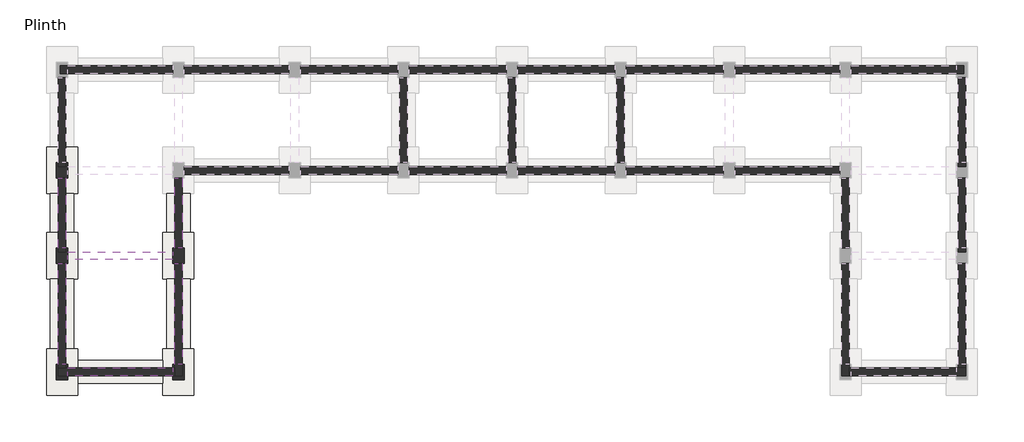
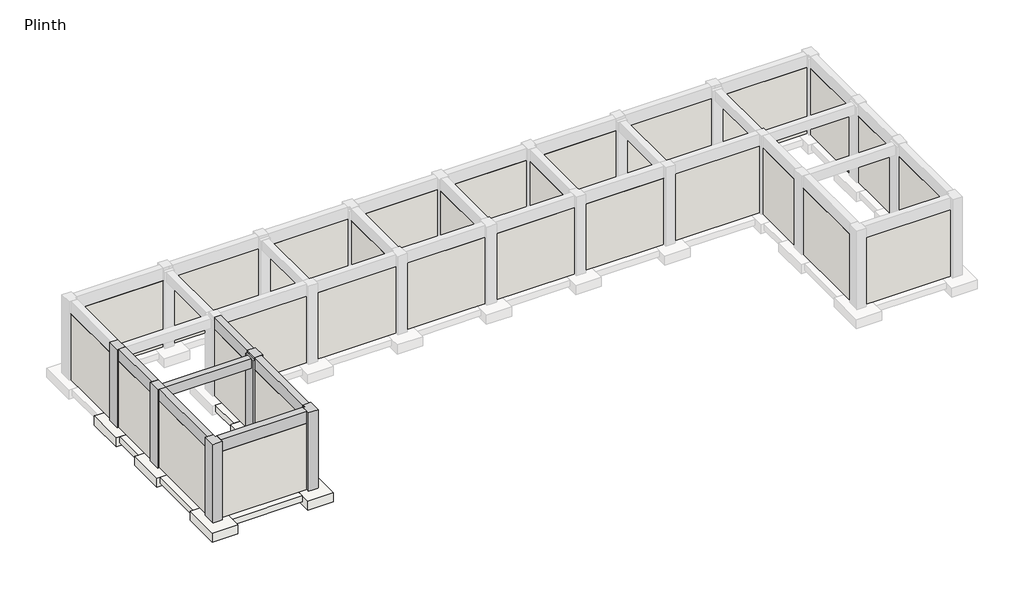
# One storey, part 1 of 3: 30 walls, 6 beams, 5 columns, 5 footings, 5 slabs.
"""IFC4 building model written with IfcOpenShell, lengths in millimetres."""

import ifcopenshell
import ifcopenshell.guid

model = None  # the IFC model being written
_history = None  # IfcOwnerHistory: only IFC2X3 demands one
_inside = {}  # id of a spatial element -> (the spatial element, [elements in it])
_under = {}  # id of a project, library or spatial element -> (it, [spatial elements below it])
_declared = {}  # id of a project -> (the project, [libraries it declares])
_typed = {}  # id of a type object -> (the type object, [elements of that type])
_made_of = {}  # id of a material, layer set ... -> (it, [elements and type objects made of it])


def new_model(schema):
    """Start an empty IFC model of exactly this schema.

    Asked for "IFC4X3", IfcOpenShell would pick the latest addendum, in which some entities
    have other attributes; the version numbers below select the first issue.
    IFC2X3 requires an IfcOwnerHistory on every rooted entity: one is made here for all.
    """
    global model, _history
    if schema == "IFC4X3":
        model = ifcopenshell.file(schema_version=(4, 3, 0, 0))
    else:
        model = ifcopenshell.file(schema=schema)
    _inside.clear()
    _under.clear()
    _declared.clear()
    _typed.clear()
    _made_of.clear()
    _history = None
    if model.schema == "IFC2X3":
        org = make("IfcOrganization", Name="unknown")
        user = make(
            "IfcPersonAndOrganization",
            ThePerson=make("IfcPerson", FamilyName="unknown"),
            TheOrganization=org,
        )
        app = make(
            "IfcApplication",
            ApplicationDeveloper=org,
            Version="unknown",
            ApplicationFullName="unknown",
            ApplicationIdentifier="unknown",
        )
        _history = make(
            "IfcOwnerHistory",
            OwningUser=user,
            OwningApplication=app,
            ChangeAction="ADDED",
            CreationDate=0,
        )
    return model


def make(cls, **values):
    """One entity of the class cls with the attributes given. An attribute that is None is left unset."""
    return model.create_entity(
        cls, **{name: value for name, value in values.items() if value is not None}
    )


def rooted(cls, **values):
    """An entity with a GlobalId (a new one), such as an element, a storey or a relation."""
    return make(cls, GlobalId=ifcopenshell.guid.new(), OwnerHistory=_history, **values)


def si_unit(unit_type, name, prefix=None):
    """IfcSIUnit, for example si_unit("LENGTHUNIT", "METRE", prefix="MILLI")."""
    return make("IfcSIUnit", UnitType=unit_type, Prefix=prefix, Name=name)


def assignment(units):
    """IfcUnitAssignment: the units of a project."""
    return None if units is None else make("IfcUnitAssignment", Units=units)


def point(xyz):
    """IfcCartesianPoint."""
    return None if xyz is None else make("IfcCartesianPoint", Coordinates=xyz)


def direction(xyz):
    """IfcDirection."""
    return None if xyz is None else make("IfcDirection", DirectionRatios=xyz)


def frame(location, z_axis=None, x_axis=None):
    """IfcAxis2Placement3D, a coordinate frame: its origin and axes. An axis left out is left unset."""
    return make(
        "IfcAxis2Placement3D",
        Location=point(location),
        Axis=direction(z_axis),
        RefDirection=direction(x_axis),
    )


def origin():
    """The frame at (0, 0, 0) with its axes left unset."""
    return frame((0.0, 0.0, 0.0))


def origin_with_axes():
    """The frame at (0, 0, 0) with the z axis (0, 0, 1) and the x axis (1, 0, 0) written out."""
    return frame((0.0, 0.0, 0.0), z_axis=(0.0, 0.0, 1.0), x_axis=(1.0, 0.0, 0.0))


def place(relative_to, where):
    """IfcLocalPlacement: puts the frame where relative to a parent placement (None: the world)."""
    return make(
        "IfcLocalPlacement", PlacementRelTo=relative_to, RelativePlacement=where
    )


def context(
    kind, dimensions, precision=None, world=None, true_north=None, identifier=None
):
    """IfcGeometricRepresentationContext, for example the 3D "Model" context."""
    return make(
        "IfcGeometricRepresentationContext",
        ContextIdentifier=identifier,
        ContextType=kind,
        CoordinateSpaceDimension=dimensions,
        Precision=precision,
        WorldCoordinateSystem=world,
        TrueNorth=true_north,
    )


def project(units=None, contexts=None):
    """IfcProject with its units and contexts."""
    return rooted(
        "IfcProject",
        Name="project",
        RepresentationContexts=contexts,
        UnitsInContext=assignment(units),
    )


def spatial(cls, under=None, at=None, **own):
    """A site, building, storey or space (cls), placed at a placement, below another one or the project."""
    s = rooted(cls, ObjectPlacement=at, **own)
    if under is not None:
        _under.setdefault(under.id(), (under, []))[1].append(s)
    return s


def polyline(points):
    """IfcPolyline through the points."""
    return make("IfcPolyline", Points=[point(p) for p in points])


def outline(outer, holes=None, kind="AREA"):
    """IfcArbitraryClosedProfileDef: a profile drawn as a closed curve; with holes, ...WithVoids."""
    if holes is None:
        return make("IfcArbitraryClosedProfileDef", ProfileType=kind, OuterCurve=outer)
    return make(
        "IfcArbitraryProfileDefWithVoids",
        ProfileType=kind,
        OuterCurve=outer,
        InnerCurves=holes,
    )


def extrude(swept, where, along, depth):
    """IfcExtrudedAreaSolid: the profile swept, set in the frame where, extruded along a direction by depth."""
    return make(
        "IfcExtrudedAreaSolid",
        SweptArea=swept,
        Position=where,
        ExtrudedDirection=direction(along),
        Depth=depth,
    )


def faces_of(points, faces, orient=None, outer=None):
    """IfcFace entities. A face is a list of loops; a loop is a list of indices into points, from 0.

    orient and outer hold one flag for each loop. By default every Orientation is true, the
    first loop of a face is its IfcFaceOuterBound and the others are IfcFaceBound.
    """
    made = []
    for i, loops in enumerate(faces):
        bounds = []
        for j, loop in enumerate(loops):
            is_outer = j == 0 if outer is None else outer[i][j]
            bounds.append(
                make(
                    "IfcFaceOuterBound" if is_outer else "IfcFaceBound",
                    Bound=make("IfcPolyLoop", Polygon=[points[k] for k in loop]),
                    Orientation=True if orient is None else orient[i][j],
                )
            )
        made.append(make("IfcFace", Bounds=bounds))
    return made


def faceted_brep(points, faces, orient=None, outer=None, voids=None):
    """IfcFacetedBrep: a solid bounded by flat faces; with voids (closed shells), ...WithVoids."""
    shared = [point(p) for p in points]
    hull = make("IfcClosedShell", CfsFaces=faces_of(shared, faces, orient, outer))
    if voids is None:
        return make("IfcFacetedBrep", Outer=hull)
    return make(
        "IfcFacetedBrepWithVoids",
        Outer=hull,
        Voids=[
            make(cls, CfsFaces=faces_of(shared, fs, o, b)) for cls, fs, o, b in voids
        ],
    )


def shape(context_of_items, identifier, shape_type, items):
    """IfcShapeRepresentation: the items that make up one representation, for example the "Body"."""
    return make(
        "IfcShapeRepresentation",
        ContextOfItems=context_of_items,
        RepresentationIdentifier=identifier,
        RepresentationType=shape_type,
        Items=items,
    )


def made_of(thing, what):
    """Note that an element or type object is made of a material, layer set ...; save() writes the relation."""
    if what is not None:
        _made_of.setdefault(what.id(), (what, []))[1].append(thing)
    return thing


def element(
    cls,
    number,
    at=None,
    inside=None,
    cuts=None,
    type_object=None,
    material=None,
    context=None,
    identifier="Body",
    shape_type=None,
    held_by="IfcProductDefinitionShape",
    body=None,
    shapes=None,
    **own,
):
    """One element of the class cls, such as IfcWall. Its Tag is "e" and its number.

    at: its placement. inside: the storey or other place that contains it. cuts: it is an
    opening in that element (IfcRelVoidsElement). A single representation is given by context,
    identifier, shape_type and body (its items); several are given by shapes. held_by: the class
    of the entity that holds the representations. save() writes the other relations.
    """
    e = rooted(cls, Tag="e%d" % number, ObjectPlacement=at, **own)
    if body is not None:
        shapes = [shape(context, identifier, shape_type, body)]
    if shapes is not None:
        e.Representation = make(held_by, Representations=shapes)
    if inside is not None:
        _inside.setdefault(inside.id(), (inside, []))[1].append(e)
    if cuts is not None:
        rooted(
            "IfcRelVoidsElement", RelatingBuildingElement=cuts, RelatedOpeningElement=e
        )
    if type_object is not None:
        _typed.setdefault(type_object.id(), (type_object, []))[1].append(e)
    return made_of(e, material)


def aggregate(whole, parts):
    """IfcRelAggregates: a whole, such as a stair, and the parts it consists of."""
    return rooted("IfcRelAggregates", RelatingObject=whole, RelatedObjects=parts)


def save(model, path):
    """Write the relations noted so far, then the file.

    IfcRelAggregates (storeys below a building ...), IfcRelContainedInSpatialStructure (elements
    in a storey), IfcRelDefinesByType, IfcRelAssociatesMaterial and IfcRelDeclares: one each for
    every whole, place, type object, material and project.
    """
    for whole, parts in _under.values():
        aggregate(whole, parts)
    for where, things in _inside.values():
        rooted(
            "IfcRelContainedInSpatialStructure",
            RelatedElements=things,
            RelatingStructure=where,
        )
    for kind, things in _typed.values():
        rooted("IfcRelDefinesByType", RelatedObjects=things, RelatingType=kind)
    for what, things in _made_of.values():
        rooted("IfcRelAssociatesMaterial", RelatedObjects=things, RelatingMaterial=what)
    for by, libraries in _declared.values():
        rooted("IfcRelDeclares", RelatingContext=by, RelatedDefinitions=libraries)
    model.write(path)


model = new_model("IFC4")

# Units and contexts
model_context = context("Model", 3, world=origin())
ifc_project = project(units=[si_unit("LENGTHUNIT", "METRE", prefix="MILLI")], contexts=[model_context])

# Site, building, storey
site = spatial("IfcSite", under=ifc_project)
building = spatial("IfcBuilding", under=site)
storey = spatial("IfcBuildingStorey", under=building, Name="Plinth", Elevation=304.8)

# Beams
placement = place(None, origin())
element("IfcBeam", 1, ObjectType="Concrete-Rectangular Beam : 12 x 24", at=placement, inside=storey, context=model_context, shape_type="SweptSolid", body=[
    extrude(outline(polyline([(-33700.7781752, 14207.7470864), (-33700.7781752, 13902.9470864), (-37815.5781752, 13902.9470864), (-37815.5781752, 14207.7470864), (-33700.7781752, 14207.7470864)])), frame((0.0, 0.0, 3657.6), z_axis=(0.0, 0.0, 1.0), x_axis=(1.0, 0.0, 0.0)), (0.0, 0.0, 1.0), 482.6),
])
element("IfcBeam", 2, ObjectType="Concrete-Rectangular Beam : 12 x 24", at=placement, inside=storey, context=model_context, shape_type="Brep", body=[
    faceted_brep([(-37891.7781752, 17103.3470864, 4267.2), (-38196.5781752, 17103.3470864, 4267.2), (-38196.5781752, 14360.1470864, 4267.2), (-37891.7781752, 14360.1470864, 4267.2), (-37891.7781752, 17103.3470864, 3657.6), (-37891.7781752, 17103.3470864, 4140.2), (-37891.7781752, 14360.1470864, 4140.2), (-37891.7781752, 14360.1470864, 3657.6), (-38196.5781752, 17103.3470864, 3657.6), (-38196.5781752, 14360.1470864, 3657.6)], [[[0, 1, 2, 3]], [[4, 5, 0, 3, 6, 7]], [[8, 4, 7, 9]], [[1, 8, 9, 2]], [[1, 0, 5, 4, 8]], [[3, 2, 9, 7, 6]]]),
])
element("IfcBeam", 3, ObjectType="Concrete-Rectangular Beam : 12 x 24", at=placement, inside=storey, context=model_context, shape_type="Brep", body=[
    faceted_brep([(-37891.7781752, 13750.5470864, 4267.2), (-38196.5781752, 13750.5470864, 4267.2), (-38196.5781752, 9788.1470864, 4267.2), (-37891.7781752, 9788.1470864, 4267.2), (-37891.7781752, 13750.5470864, 3657.6), (-37891.7781752, 13750.5470864, 4140.2), (-37891.7781752, 9788.1470864, 4140.2), (-37891.7781752, 9788.1470864, 3657.6), (-38196.5781752, 13750.5470864, 3657.6), (-38196.5781752, 9788.1470864, 3657.6)], [[[0, 1, 2, 3]], [[4, 5, 0, 3, 6, 7]], [[8, 4, 7, 9]], [[1, 8, 9, 2]], [[1, 0, 5, 4, 8]], [[3, 2, 9, 7, 6]]]),
])
element("IfcBeam", 4, ObjectType="Concrete-Rectangular Beam : 12 x 24", at=placement, inside=storey, context=model_context, shape_type="Brep", body=[
    faceted_brep([(-33319.7781752, 17103.3470864, 4267.2), (-33624.5781752, 17103.3470864, 4267.2), (-33624.5781752, 14360.1470864, 4267.2), (-33319.7781752, 14360.1470864, 4267.2), (-33319.7781752, 17103.3470864, 3657.6), (-33319.7781752, 14360.1470864, 3657.6), (-33624.5781752, 17103.3470864, 3657.6), (-33624.5781752, 14360.1470864, 3657.6), (-33624.5781752, 17103.3470864, 4140.2), (-33624.5781752, 14360.1470864, 4140.2)], [[[0, 1, 2, 3]], [[4, 0, 3, 5]], [[6, 4, 5, 7]], [[2, 1, 8, 6, 7, 9]], [[1, 0, 4, 6, 8]], [[3, 2, 9, 7, 5]]]),
])
element("IfcBeam", 5, ObjectType="Concrete-Rectangular Beam : 12 x 24", at=placement, inside=storey, context=model_context, shape_type="Brep", body=[
    faceted_brep([(-33319.7781752, 13750.5470864, 4267.2), (-33624.5781752, 13750.5470864, 4267.2), (-33624.5781752, 9788.1470864, 4267.2), (-33319.7781752, 9788.1470864, 4267.2), (-33319.7781752, 13750.5470864, 3657.6), (-33319.7781752, 9788.1470864, 3657.6), (-33624.5781752, 13750.5470864, 3657.6), (-33624.5781752, 9788.1470864, 3657.6), (-33624.5781752, 13750.5470864, 4140.2), (-33624.5781752, 9788.1470864, 4140.2)], [[[0, 1, 2, 3]], [[4, 0, 3, 5]], [[6, 4, 5, 7]], [[2, 1, 8, 6, 7, 9]], [[1, 0, 4, 6, 8]], [[3, 2, 9, 7, 5]]]),
])
element("IfcBeam", 6, ObjectType="Concrete-Rectangular Beam : 12 x 24", at=placement, inside=storey, context=model_context, shape_type="Brep", body=[
    faceted_brep([(-33700.7781752, 9330.9470864, 4267.2), (-33700.7781752, 9635.7470864, 4267.2), (-37815.5781752, 9635.7470864, 4267.2), (-37815.5781752, 9330.9470864, 4267.2), (-33700.7781752, 9330.9470864, 3657.6), (-37815.5781752, 9330.9470864, 3657.6), (-33700.7781752, 9635.7470864, 3657.6), (-37815.5781752, 9635.7470864, 3657.6), (-33700.7781752, 9635.7470864, 4140.2), (-37815.5781752, 9635.7470864, 4140.2)], [[[0, 1, 2, 3]], [[4, 0, 3, 5]], [[6, 4, 5, 7]], [[1, 8, 6, 7, 9, 2]], [[1, 0, 4, 6, 8]], [[3, 2, 9, 7, 5]]]),
])

# Columns
element("IfcColumn", 7, ObjectType="Concrete-Rectangular-Column : 18 x 24", at=placement, inside=storey, context=model_context, shape_type="Brep", body=[
    faceted_brep([(-38272.7781752, 17103.3470864, 304.8), (-38272.7781752, 17712.9470864, 304.8), (-38196.5781752, 17712.9470864, 304.8), (-38196.5781752, 17560.5470864, 304.8), (-37891.7781752, 17560.5470864, 304.8), (-37891.7781752, 17712.9470864, 304.8), (-37815.5781752, 17712.9470864, 304.8), (-37815.5781752, 17103.3470864, 304.8), (-37891.7781752, 17103.3470864, 304.8), (-38196.5781752, 17103.3470864, 304.8), (-38272.7781752, 17103.3470864, 4267.2), (-38272.7781752, 17712.9470864, 4267.2), (-37815.5781752, 17103.3470864, 4140.2), (-37891.7781752, 17103.3470864, 4140.2), (-37891.7781752, 17103.3470864, 4267.2), (-37815.5781752, 17712.9470864, 4140.2), (-37891.7781752, 17712.9470864, 4267.2), (-37891.7781752, 17712.9470864, 4140.2), (-37891.7781752, 17712.9470864, 3657.6), (-38196.5781752, 17712.9470864, 3657.6), (-37891.7781752, 17107.3073578, 4267.2), (-38196.5781752, 17560.5470864, 3657.6), (-37891.7781752, 17560.5470864, 3657.6), (-37891.7781752, 17107.3073578, 4140.2)], [[[0, 1, 2, 3, 4, 5, 6, 7, 8, 9]], [[1, 0, 10, 11]], [[0, 9, 8, 7, 12, 13, 14, 10]], [[7, 6, 15, 12]], [[1, 11, 16, 17, 15, 6, 5, 18, 19, 2]], [[11, 10, 14, 20, 16]], [[21, 3, 2, 19]], [[22, 21, 19, 18]], [[22, 4, 3, 21]], [[4, 22, 18, 5]], [[17, 23, 13, 12, 15]], [[20, 23, 17, 16]], [[23, 20, 14, 13]]]),
])
element("IfcColumn", 8, ObjectType="Concrete-Rectangular-Column : 18 x 24", at=placement, inside=storey, context=model_context, shape_type="Brep", body=[
    faceted_brep([(-33700.7781752, 13750.5470864, 304.8), (-33700.7781752, 14360.1470864, 304.8), (-33624.5781752, 14360.1470864, 304.8), (-33319.7781752, 14360.1470864, 304.8), (-33243.5781752, 14360.1470864, 304.8), (-33243.5781752, 13750.5470864, 304.8), (-33319.7781752, 13750.5470864, 304.8), (-33624.5781752, 13750.5470864, 304.8), (-33700.7781752, 13750.5470864, 4140.2), (-33700.7781752, 14360.1470864, 4140.2), (-33243.5781752, 13750.5470864, 4267.2), (-33624.5781752, 13750.5470864, 4267.2), (-33624.5781752, 13750.5470864, 4140.2), (-33243.5781752, 14360.1470864, 4267.2), (-33624.5781752, 14360.1470864, 4140.2), (-33624.5781752, 14360.1470864, 4267.2), (-33624.5781752, 14211.6122361, 4267.2), (-33624.5781752, 14211.6122361, 4140.2)], [[[0, 1, 2, 3, 4, 5, 6, 7]], [[1, 0, 8, 9]], [[0, 7, 6, 5, 10, 11, 12, 8]], [[5, 4, 13, 10]], [[4, 3, 2, 1, 9, 14, 15, 13]], [[10, 13, 15, 16, 11]], [[12, 17, 14, 9, 8]], [[16, 17, 12, 11]], [[17, 16, 15, 14]]]),
])
element("IfcColumn", 9, ObjectType="Concrete-Rectangular-Column : 18 x 24", at=placement, inside=storey, context=model_context, shape_type="Brep", body=[
    faceted_brep([(-38272.7781752, 13750.5470864, 304.8), (-38272.7781752, 14360.1470864, 304.8), (-38196.5781752, 14360.1470864, 304.8), (-38196.5781752, 14207.7470864, 304.8), (-37891.7781752, 14207.7470864, 304.8), (-37891.7781752, 14360.1470864, 304.8), (-37815.5781752, 14360.1470864, 304.8), (-37815.5781752, 13750.5470864, 304.8), (-37891.7781752, 13750.5470864, 304.8), (-38196.5781752, 13750.5470864, 304.8), (-38272.7781752, 13750.5470864, 4267.2), (-38272.7781752, 14360.1470864, 4267.2), (-37815.5781752, 13750.5470864, 4140.2), (-37891.7781752, 13750.5470864, 4140.2), (-37891.7781752, 13750.5470864, 4267.2), (-37815.5781752, 14360.1470864, 4140.2), (-37891.7781752, 14360.1470864, 4267.2), (-37891.7781752, 14360.1470864, 4140.2), (-37891.7781752, 14360.1470864, 3657.6), (-38196.5781752, 14360.1470864, 3657.6), (-37891.7781752, 14203.6458879, 4267.2), (-38196.5781752, 14207.7470864, 3657.6), (-37891.7781752, 14207.7470864, 3657.6), (-37891.7781752, 14203.6458879, 4140.2)], [[[0, 1, 2, 3, 4, 5, 6, 7, 8, 9]], [[1, 0, 10, 11]], [[0, 9, 8, 7, 12, 13, 14, 10]], [[7, 6, 15, 12]], [[1, 11, 16, 17, 15, 6, 5, 18, 19, 2]], [[11, 10, 14, 20, 16]], [[21, 3, 2, 19]], [[22, 21, 19, 18]], [[22, 4, 3, 21]], [[4, 22, 18, 5]], [[17, 23, 13, 12, 15]], [[20, 23, 17, 16]], [[23, 20, 14, 13]]]),
])
element("IfcColumn", 10, ObjectType="Concrete-Rectangular-Column : 18 x 24", at=placement, inside=storey, context=model_context, shape_type="Brep", body=[
    faceted_brep([(-33243.5781752, 9178.5470864, 304.8), (-33700.7781752, 9178.5470864, 304.8), (-33700.7781752, 9330.9470864, 304.8), (-33624.5781752, 9330.9470864, 304.8), (-33319.7781752, 9330.9470864, 304.8), (-33319.7781752, 9788.1470864, 304.8), (-33243.5781752, 9788.1470864, 304.8), (-33700.7781752, 9178.5470864, 4267.2), (-33700.7781752, 9635.7470864, 4267.2), (-33700.7781752, 9635.7470864, 4140.2), (-33700.7781752, 9788.1470864, 4140.2), (-33700.7781752, 9788.1470864, 304.8), (-33700.7781752, 9635.7470864, 304.8), (-33700.7781752, 9635.7470864, 3657.6), (-33700.7781752, 9330.9470864, 3657.6), (-33243.5781752, 9178.5470864, 4267.2), (-33243.5781752, 9788.1470864, 4267.2), (-33319.7781752, 9788.1470864, 3657.6), (-33624.5781752, 9788.1470864, 3657.6), (-33624.5781752, 9788.1470864, 304.8), (-33624.5781752, 9788.1470864, 4140.2), (-33624.5781752, 9788.1470864, 4267.2), (-33624.5781752, 9635.7470864, 4267.2), (-33624.5781752, 9635.7470864, 3657.6), (-33624.5781752, 9635.7470864, 304.8), (-33319.7781752, 9330.9470864, 3657.6), (-33624.5781752, 9330.9470864, 3657.6), (-33624.5781752, 9635.7470864, 4140.2)], [[[0, 1, 2, 3, 4, 5, 6]], [[1, 7, 8, 9, 10, 11, 12, 13, 14, 2]], [[1, 0, 15, 7]], [[0, 6, 16, 15]], [[16, 6, 5, 17, 18, 19, 11, 10, 20, 21]], [[7, 15, 16, 21, 22, 8]], [[19, 18, 23, 24]], [[4, 25, 17, 5]], [[25, 4, 3, 2, 14, 26]], [[23, 13, 12, 24]], [[17, 25, 26, 14, 13, 23, 18]], [[11, 19, 24, 12]], [[9, 27, 20, 10]], [[22, 27, 9, 8]], [[27, 22, 21, 20]]]),
])
element("IfcColumn", 11, ObjectType="Concrete-Rectangular-Column : 18 x 24", at=placement, inside=storey, context=model_context, shape_type="Brep", body=[
    faceted_brep([(-37815.5781752, 9788.1470864, 304.8), (-37815.5781752, 9635.7470864, 304.8), (-37891.7781752, 9635.7470864, 304.8), (-37891.7781752, 9788.1470864, 304.8), (-38272.7781752, 9788.1470864, 304.8), (-38272.7781752, 9178.5470864, 304.8), (-38272.7781752, 9178.5470864, 4267.2), (-38272.7781752, 9788.1470864, 4267.2), (-37815.5781752, 9178.5470864, 304.8), (-37815.5781752, 9178.5470864, 4267.2), (-37815.5781752, 9330.9470864, 304.8), (-37815.5781752, 9330.9470864, 3657.6), (-37815.5781752, 9635.7470864, 3657.6), (-37815.5781752, 9788.1470864, 4140.2), (-37815.5781752, 9635.7470864, 4140.2), (-37815.5781752, 9635.7470864, 4267.2), (-37891.7781752, 9788.1470864, 4267.2), (-37891.7781752, 9788.1470864, 4140.2), (-37891.7781752, 9788.1470864, 3657.6), (-38196.5781752, 9788.1470864, 3657.6), (-38196.5781752, 9788.1470864, 304.8), (-37891.7781752, 9635.7470864, 4267.2), (-37891.7781752, 9635.7470864, 3657.6), (-38196.5781752, 9330.9470864, 3657.6), (-38196.5781752, 9330.9470864, 304.8), (-38196.5781752, 9635.7470864, 3657.6), (-38196.5781752, 9635.7470864, 304.8), (-37891.7781752, 9635.7470864, 4140.2)], [[[0, 1, 2, 3]], [[4, 5, 6, 7]], [[5, 8, 9, 6]], [[9, 8, 10, 11, 12, 1, 0, 13, 14, 15]], [[4, 7, 16, 17, 13, 0, 3, 18, 19, 20]], [[7, 6, 9, 15, 21, 16]], [[1, 12, 22, 2]], [[23, 11, 10, 24]], [[11, 23, 25, 19, 18, 22, 12]], [[23, 24, 26, 20, 19, 25]], [[22, 18, 3, 2]], [[5, 4, 20, 26, 24, 10, 8]], [[17, 27, 14, 13]], [[21, 27, 17, 16]], [[27, 21, 15, 14]]]),
])

# Footings
element("IfcFooting", 12, ObjectType="Bearing Footing - 36\" x 12\"", at=placement, inside=storey, context=model_context, shape_type="SweptSolid", body=[
    extrude(outline(polyline([(-38501.3781752, 16493.7470864), (-37586.9781752, 16493.7470864), (-37586.9781752, 14969.7470864), (-38501.3781752, 14969.7470864), (-38501.3781752, 16493.7470864)])), origin_with_axes(), (0.0, 0.0, 1.0), 304.8),
])
element("IfcFooting", 13, ObjectType="Bearing Footing - 36\" x 12\"", at=placement, inside=storey, context=model_context, shape_type="SweptSolid", body=[
    extrude(outline(polyline([(-38501.3781752, 13140.9470864), (-37586.9781752, 13140.9470864), (-37586.9781752, 10397.7470864), (-38501.3781752, 10397.7470864), (-38501.3781752, 13140.9470864)])), origin_with_axes(), (0.0, 0.0, 1.0), 304.8),
])
element("IfcFooting", 14, ObjectType="Bearing Footing - 36\" x 12\"", at=placement, inside=storey, context=model_context, shape_type="SweptSolid", body=[
    extrude(outline(polyline([(-34081.7781752, 9940.5470864), (-34081.7781752, 9026.1470864), (-37434.5781752, 9026.1470864), (-37434.5781752, 9940.5470864), (-34081.7781752, 9940.5470864)])), origin_with_axes(), (0.0, 0.0, 1.0), 304.8),
])
element("IfcFooting", 15, ObjectType="Bearing Footing - 36\" x 12\"", at=placement, inside=storey, context=model_context, shape_type="SweptSolid", body=[
    extrude(outline(polyline([(-33929.3781752, 13140.9470864), (-33014.9781752, 13140.9470864), (-33014.9781752, 10397.7470864), (-33929.3781752, 10397.7470864), (-33929.3781752, 13140.9470864)])), origin_with_axes(), (0.0, 0.0, 1.0), 304.8),
])
element("IfcFooting", 16, ObjectType="Bearing Footing - 36\" x 12\"", at=placement, inside=storey, context=model_context, shape_type="SweptSolid", body=[
    extrude(outline(polyline([(-33929.3781752, 16493.7470864), (-33014.9781752, 16493.7470864), (-33014.9781752, 14969.7470864), (-33929.3781752, 14969.7470864), (-33929.3781752, 16493.7470864)])), origin_with_axes(), (0.0, 0.0, 1.0), 304.8),
])

# Slabs
element("IfcSlab", 17, ObjectType="Footing-Rectangular : 72\" x 48\" x 18\"", at=placement, inside=storey, context=model_context, shape_type="Brep", body=[
    faceted_brep([(-37434.5781752, 16493.7470864, 304.8), (-37434.5781752, 18322.5470864, 304.8), (-37586.9781752, 18322.5470864, 304.8), (-38501.3781752, 18322.5470864, 304.8), (-38653.7781752, 18322.5470864, 304.8), (-38653.7781752, 16493.7470864, 304.8), (-38501.3781752, 16493.7470864, 304.8), (-37586.9781752, 16493.7470864, 304.8), (-37434.5781752, 16493.7470864, -152.4), (-38653.7781752, 16493.7470864, -152.4), (-38653.7781752, 18322.5470864, -152.4), (-37434.5781752, 18322.5470864, -152.4)], [[[0, 1, 2, 3, 4, 5, 6, 7]], [[8, 9, 10, 11]], [[5, 9, 8, 0, 7, 6]], [[4, 10, 9, 5]], [[1, 11, 10, 4, 3, 2]], [[0, 8, 11, 1]]]),
])
element("IfcSlab", 18, ObjectType="Footing-Rectangular : 72\" x 48\" x 18\"", at=placement, inside=storey, context=model_context, shape_type="Brep", body=[
    faceted_brep([(-32862.5781752, 13140.9470864, 304.8), (-32862.5781752, 14969.7470864, 304.8), (-33014.9781752, 14969.7470864, 304.8), (-33929.3781752, 14969.7470864, 304.8), (-34081.7781752, 14969.7470864, 304.8), (-34081.7781752, 13140.9470864, 304.8), (-33929.3781752, 13140.9470864, 304.8), (-33014.9781752, 13140.9470864, 304.8), (-32862.5781752, 13140.9470864, -152.4), (-34081.7781752, 13140.9470864, -152.4), (-34081.7781752, 14969.7470864, -152.4), (-32862.5781752, 14969.7470864, -152.4)], [[[0, 1, 2, 3, 4, 5, 6, 7]], [[8, 9, 10, 11]], [[5, 9, 8, 0, 7, 6]], [[4, 10, 9, 5]], [[1, 11, 10, 4, 3, 2]], [[0, 8, 11, 1]]]),
])
element("IfcSlab", 19, ObjectType="Footing-Rectangular : 72\" x 48\" x 18\"", at=placement, inside=storey, context=model_context, shape_type="Brep", body=[
    faceted_brep([(-37434.5781752, 13140.9470864, 304.8), (-37434.5781752, 14969.7470864, 304.8), (-37586.9781752, 14969.7470864, 304.8), (-38501.3781752, 14969.7470864, 304.8), (-38653.7781752, 14969.7470864, 304.8), (-38653.7781752, 13140.9470864, 304.8), (-38501.3781752, 13140.9470864, 304.8), (-37586.9781752, 13140.9470864, 304.8), (-37434.5781752, 13140.9470864, -152.4), (-38653.7781752, 13140.9470864, -152.4), (-38653.7781752, 14969.7470864, -152.4), (-37434.5781752, 14969.7470864, -152.4)], [[[0, 1, 2, 3, 4, 5, 6, 7]], [[8, 9, 10, 11]], [[5, 9, 8, 0, 7, 6]], [[4, 10, 9, 5]], [[1, 11, 10, 4, 3, 2]], [[0, 8, 11, 1]]]),
])
element("IfcSlab", 20, ObjectType="Footing-Rectangular : 72\" x 48\" x 18\"", at=placement, inside=storey, context=model_context, shape_type="Brep", body=[
    faceted_brep([(-32862.5781752, 8568.9470864, 304.8), (-32862.5781752, 10397.7470864, 304.8), (-33014.9781752, 10397.7470864, 304.8), (-33929.3781752, 10397.7470864, 304.8), (-34081.7781752, 10397.7470864, 304.8), (-34081.7781752, 9940.5470864, 304.8), (-34081.7781752, 9026.1470864, 304.8), (-34081.7781752, 8568.9470864, 304.8), (-32862.5781752, 8568.9470864, -152.4), (-34081.7781752, 8568.9470864, -152.4), (-34081.7781752, 10397.7470864, -152.4), (-32862.5781752, 10397.7470864, -152.4)], [[[0, 1, 2, 3, 4, 5, 6, 7]], [[8, 9, 10, 11]], [[7, 9, 8, 0]], [[4, 10, 9, 7, 6, 5]], [[1, 11, 10, 4, 3, 2]], [[0, 8, 11, 1]]]),
])
element("IfcSlab", 21, ObjectType="Footing-Rectangular : 72\" x 48\" x 18\"", at=placement, inside=storey, context=model_context, shape_type="Brep", body=[
    faceted_brep([(-37434.5781752, 8568.9470864, 304.8), (-37434.5781752, 9026.1470864, 304.8), (-37434.5781752, 9940.5470864, 304.8), (-37434.5781752, 10397.7470864, 304.8), (-37586.9781752, 10397.7470864, 304.8), (-38501.3781752, 10397.7470864, 304.8), (-38653.7781752, 10397.7470864, 304.8), (-38653.7781752, 8568.9470864, 304.8), (-37434.5781752, 8568.9470864, -152.4), (-38653.7781752, 8568.9470864, -152.4), (-38653.7781752, 10397.7470864, -152.4), (-37434.5781752, 10397.7470864, -152.4)], [[[0, 1, 2, 3, 4, 5, 6, 7]], [[8, 9, 10, 11]], [[7, 9, 8, 0]], [[6, 10, 9, 7]], [[3, 11, 10, 6, 5, 4]], [[0, 8, 11, 3, 2, 1]]]),
])

# Walls
element("IfcWall", 22, ObjectType="Exterior - 12\" Concrete", at=placement, inside=storey, context=model_context, shape_type="Brep", body=[
    faceted_brep([(-7030.7781752, 21218.1470864, 304.8), (-2915.9781752, 21218.1470864, 304.8), (-2611.1781752, 21218.1470864, 304.8), (-2611.1781752, 21218.1470864, 3352.8), (-2611.1781752, 21218.1470864, 3657.6), (-2915.9781752, 21218.1470864, 3657.6), (-7030.7781752, 21218.1470864, 3657.6), (-7030.7781752, 21522.9470864, 304.8), (-7030.7781752, 21522.9470864, 3657.6), (-2915.9781752, 21522.9470864, 3657.6), (-2611.1781752, 21522.9470864, 3657.6), (-2611.1781752, 21522.9470864, 3352.8), (-2611.1781752, 21522.9470864, 304.8), (-2915.9781752, 21522.9470864, 304.8)], [[[0, 1, 2, 3, 4, 5, 6]], [[7, 8, 9, 10, 11, 12, 13]], [[2, 1, 0, 7, 13, 12]], [[4, 3, 2, 12, 11, 10]], [[6, 5, 4, 10, 9, 8]], [[0, 6, 8, 7]]]),
])
element("IfcWall", 23, ObjectType="Exterior - 12\" Concrete", at=placement, inside=storey, context=model_context, shape_type="SweptSolid", body=[
    extrude(outline(polyline([(-7411.7781752, 14360.1470864), (-7411.7781752, 17103.3470864), (-7106.9781752, 17103.3470864), (-7106.9781752, 14360.1470864), (-7411.7781752, 14360.1470864)])), frame((0.0, 0.0, 304.8), z_axis=(0.0, 0.0, 1.0), x_axis=(1.0, 0.0, 0.0)), (0.0, 0.0, 1.0), 3352.8),
])
element("IfcWall", 24, ObjectType="Exterior - 12\" Concrete", at=placement, inside=storey, context=model_context, shape_type="Brep", body=[
    faceted_brep([(-7411.7781752, 13750.5470864, 304.8), (-7411.7781752, 9788.1470864, 304.8), (-7411.7781752, 9330.9470864, 304.8), (-7411.7781752, 9330.9470864, 3352.8), (-7411.7781752, 9330.9470864, 3657.6), (-7411.7781752, 9788.1470864, 3657.6), (-7411.7781752, 13750.5470864, 3657.6), (-7106.9781752, 13750.5470864, 304.8), (-7106.9781752, 13750.5470864, 3657.6), (-7106.9781752, 9788.1470864, 3657.6), (-7106.9781752, 9635.7470864, 3657.6), (-7106.9781752, 9330.9470864, 3657.6), (-7106.9781752, 9330.9470864, 304.8), (-7106.9781752, 9635.7470864, 304.8), (-7106.9781752, 9788.1470864, 304.8)], [[[0, 1, 2, 3, 4, 5, 6]], [[7, 8, 9, 10, 11, 12, 13, 14]], [[2, 1, 0, 7, 14, 13, 12]], [[6, 5, 4, 11, 10, 9, 8]], [[0, 6, 8, 7]], [[4, 3, 2, 12, 11]]]),
])
element("IfcWall", 25, ObjectType="Exterior - 12\" Concrete", at=placement, inside=storey, context=model_context, shape_type="Brep", body=[
    faceted_brep([(-7106.9781752, 9330.9470864, 304.8), (-7030.7781752, 9330.9470864, 304.8), (-2915.9781752, 9330.9470864, 304.8), (-2534.9781752, 9330.9470864, 304.8), (-2534.9781752, 9330.9470864, 3352.8), (-2534.9781752, 9330.9470864, 3657.6), (-2915.9781752, 9330.9470864, 3657.6), (-7030.7781752, 9330.9470864, 3657.6), (-7106.9781752, 9330.9470864, 3657.6), (-7106.9781752, 9635.7470864, 304.8), (-7106.9781752, 9635.7470864, 3352.8), (-7106.9781752, 9635.7470864, 3657.6), (-7030.7781752, 9635.7470864, 3657.6), (-2915.9781752, 9635.7470864, 3657.6), (-2839.7781752, 9635.7470864, 3657.6), (-2534.9781752, 9635.7470864, 3657.6), (-2534.9781752, 9635.7470864, 304.8), (-2839.7781752, 9635.7470864, 304.8), (-2915.9781752, 9635.7470864, 304.8), (-7030.7781752, 9635.7470864, 304.8)], [[[0, 1, 2, 3, 4, 5, 6, 7, 8]], [[9, 10, 11, 12, 13, 14, 15, 16, 17, 18, 19]], [[3, 2, 1, 0, 9, 19, 18, 17, 16]], [[8, 7, 6, 5, 15, 14, 13, 12, 11]], [[0, 8, 11, 10, 9]], [[5, 4, 3, 16, 15]]]),
])
element("IfcWall", 26, ObjectType="Exterior - 12\" Concrete", at=placement, inside=storey, context=model_context, shape_type="Brep", body=[
    faceted_brep([(-2534.9781752, 9635.7470864, 304.8), (-2534.9781752, 9788.1470864, 304.8), (-2534.9781752, 13750.5470864, 304.8), (-2534.9781752, 13750.5470864, 3657.6), (-2534.9781752, 9788.1470864, 3657.6), (-2534.9781752, 9635.7470864, 3657.6), (-2839.7781752, 9635.7470864, 304.8), (-2839.7781752, 9635.7470864, 3352.8), (-2839.7781752, 9635.7470864, 3657.6), (-2839.7781752, 9788.1470864, 3657.6), (-2839.7781752, 13750.5470864, 3657.6), (-2839.7781752, 13750.5470864, 304.8), (-2839.7781752, 9788.1470864, 304.8)], [[[0, 1, 2, 3, 4, 5]], [[6, 7, 8, 9, 10, 11, 12]], [[2, 1, 0, 6, 12, 11]], [[3, 2, 11, 10]], [[5, 4, 3, 10, 9, 8]], [[0, 5, 8, 7, 6]]]),
])
element("IfcWall", 27, ObjectType="Exterior - 12\" Concrete", at=placement, inside=storey, context=model_context, shape_type="Brep", body=[
    faceted_brep([(-2534.9781752, 14207.7470864, 304.8), (-2534.9781752, 14360.1470864, 304.8), (-2534.9781752, 17103.3470864, 304.8), (-2534.9781752, 17103.3470864, 3657.6), (-2534.9781752, 14360.1470864, 3657.6), (-2534.9781752, 14207.7470864, 3657.6), (-2534.9781752, 14207.7470864, 3352.8), (-2839.7781752, 14207.7470864, 304.8), (-2839.7781752, 14207.7470864, 3352.8), (-2839.7781752, 14207.7470864, 3657.6), (-2839.7781752, 14360.1470864, 3657.6), (-2839.7781752, 17103.3470864, 3657.6), (-2839.7781752, 17103.3470864, 304.8), (-2839.7781752, 14360.1470864, 304.8)], [[[0, 1, 2, 3, 4, 5, 6]], [[7, 8, 9, 10, 11, 12, 13]], [[2, 1, 0, 7, 13, 12]], [[3, 2, 12, 11]], [[5, 4, 3, 11, 10, 9]], [[0, 6, 5, 9, 8, 7]]]),
])
element("IfcWall", 28, ObjectType="Exterior - 12\" Concrete", at=placement, inside=storey, context=model_context, shape_type="Brep", body=[
    faceted_brep([(-2534.9781752, 17560.5470864, 304.8), (-2534.9781752, 17712.9470864, 304.8), (-2534.9781752, 21065.7470864, 304.8), (-2534.9781752, 21065.7470864, 3657.6), (-2534.9781752, 17712.9470864, 3657.6), (-2534.9781752, 17560.5470864, 3657.6), (-2534.9781752, 17560.5470864, 3352.8), (-2839.7781752, 17560.5470864, 304.8), (-2839.7781752, 17560.5470864, 3352.8), (-2839.7781752, 17560.5470864, 3657.6), (-2839.7781752, 17712.9470864, 3657.6), (-2839.7781752, 21065.7470864, 3657.6), (-2839.7781752, 21065.7470864, 304.8), (-2839.7781752, 17712.9470864, 304.8)], [[[0, 1, 2, 3, 4, 5, 6]], [[7, 8, 9, 10, 11, 12, 13]], [[2, 1, 0, 7, 13, 12]], [[3, 2, 12, 11]], [[5, 4, 3, 11, 10, 9]], [[0, 6, 5, 9, 8, 7]]]),
])
element("IfcWall", 29, ObjectType="Exterior - 12\" Concrete", at=placement, inside=storey, context=model_context, shape_type="SweptSolid", body=[
    extrude(outline(polyline([(-20518.1781752, 17712.9470864), (-20518.1781752, 21065.7470864), (-20213.3781752, 21065.7470864), (-20213.3781752, 17712.9470864), (-20518.1781752, 17712.9470864)])), frame((0.0, 0.0, 304.8), z_axis=(0.0, 0.0, 1.0), x_axis=(1.0, 0.0, 0.0)), (0.0, 0.0, 1.0), 3352.8),
])
element("IfcWall", 30, ObjectType="Exterior - 12\" Concrete", at=placement, inside=storey, context=model_context, shape_type="SweptSolid", body=[
    extrude(outline(polyline([(-16327.1781752, 21218.1470864), (-20137.1781752, 21218.1470864), (-20137.1781752, 21522.9470864), (-16327.1781752, 21522.9470864), (-16327.1781752, 21218.1470864)])), frame((0.0, 0.0, 304.8), z_axis=(0.0, 0.0, 1.0), x_axis=(1.0, 0.0, 0.0)), (0.0, 0.0, 1.0), 3352.8),
])
element("IfcWall", 31, ObjectType="Exterior - 12\" Concrete", at=placement, inside=storey, context=model_context, shape_type="SweptSolid", body=[
    extrude(outline(polyline([(-12059.9781752, 21218.1470864), (-15869.9781752, 21218.1470864), (-15869.9781752, 21522.9470864), (-12059.9781752, 21522.9470864), (-12059.9781752, 21218.1470864)])), frame((0.0, 0.0, 304.8), z_axis=(0.0, 0.0, 1.0), x_axis=(1.0, 0.0, 0.0)), (0.0, 0.0, 1.0), 3352.8),
])
element("IfcWall", 32, ObjectType="Exterior - 12\" Concrete", at=placement, inside=storey, context=model_context, shape_type="SweptSolid", body=[
    extrude(outline(polyline([(-7487.9781752, 21218.1470864), (-11602.7781752, 21218.1470864), (-11602.7781752, 21522.9470864), (-7487.9781752, 21522.9470864), (-7487.9781752, 21218.1470864)])), frame((0.0, 0.0, 304.8), z_axis=(0.0, 0.0, 1.0), x_axis=(1.0, 0.0, 0.0)), (0.0, 0.0, 1.0), 3352.8),
])
element("IfcWall", 33, ObjectType="Exterior - 12\" Concrete", at=placement, inside=storey, context=model_context, shape_type="SweptSolid", body=[
    extrude(outline(polyline([(-16327.1781752, 17255.7470864), (-20137.1781752, 17255.7470864), (-20137.1781752, 17560.5470864), (-16327.1781752, 17560.5470864), (-16327.1781752, 17255.7470864)])), frame((0.0, 0.0, 304.8), z_axis=(0.0, 0.0, 1.0), x_axis=(1.0, 0.0, 0.0)), (0.0, 0.0, 1.0), 3352.8),
])
element("IfcWall", 34, ObjectType="Exterior - 12\" Concrete", at=placement, inside=storey, context=model_context, shape_type="SweptSolid", body=[
    extrude(outline(polyline([(-12059.9781752, 17255.7470864), (-15869.9781752, 17255.7470864), (-15869.9781752, 17560.5470864), (-12059.9781752, 17560.5470864), (-12059.9781752, 17255.7470864)])), frame((0.0, 0.0, 304.8), z_axis=(0.0, 0.0, 1.0), x_axis=(1.0, 0.0, 0.0)), (0.0, 0.0, 1.0), 3352.8),
])
element("IfcWall", 35, ObjectType="Exterior - 12\" Concrete", at=placement, inside=storey, context=model_context, shape_type="SweptSolid", body=[
    extrude(outline(polyline([(-7487.9781752, 17255.7470864), (-11602.7781752, 17255.7470864), (-11602.7781752, 17560.5470864), (-7487.9781752, 17560.5470864), (-7487.9781752, 17255.7470864)])), frame((0.0, 0.0, 304.8), z_axis=(0.0, 0.0, 1.0), x_axis=(1.0, 0.0, 0.0)), (0.0, 0.0, 1.0), 3352.8),
])
element("IfcWall", 36, ObjectType="Exterior - 12\" Concrete", at=placement, inside=storey, context=model_context, shape_type="SweptSolid", body=[
    extrude(outline(polyline([(-16250.9781752, 17712.9470864), (-16250.9781752, 21065.7470864), (-15946.1781752, 21065.7470864), (-15946.1781752, 17712.9470864), (-16250.9781752, 17712.9470864)])), frame((0.0, 0.0, 304.8), z_axis=(0.0, 0.0, 1.0), x_axis=(1.0, 0.0, 0.0)), (0.0, 0.0, 1.0), 3352.8),
])
element("IfcWall", 37, ObjectType="Exterior - 12\" Concrete", at=placement, inside=storey, context=model_context, shape_type="Brep", body=[
    faceted_brep([(-33700.7781752, 21522.9470864, 304.8), (-37815.5781752, 21522.9470864, 304.8), (-38120.3781752, 21522.9470864, 304.8), (-38120.3781752, 21522.9470864, 3352.8), (-38120.3781752, 21522.9470864, 3657.6), (-37815.5781752, 21522.9470864, 3657.6), (-33700.7781752, 21522.9470864, 3657.6), (-33700.7781752, 21218.1470864, 304.8), (-33700.7781752, 21218.1470864, 3657.6), (-37815.5781752, 21218.1470864, 3657.6), (-38120.3781752, 21218.1470864, 3657.6), (-38120.3781752, 21218.1470864, 3352.8), (-38120.3781752, 21218.1470864, 304.8), (-37815.5781752, 21218.1470864, 304.8)], [[[0, 1, 2, 3, 4, 5, 6]], [[7, 8, 9, 10, 11, 12, 13]], [[2, 1, 0, 7, 13, 12]], [[4, 3, 2, 12, 11, 10]], [[6, 5, 4, 10, 9, 8]], [[0, 6, 8, 7]]]),
])
element("IfcWall", 38, ObjectType="Exterior - 12\" Concrete", at=placement, inside=storey, context=model_context, shape_type="SweptSolid", body=[
    extrude(outline(polyline([(-33624.5781752, 14360.1470864), (-33624.5781752, 17103.3470864), (-33319.7781752, 17103.3470864), (-33319.7781752, 14360.1470864), (-33624.5781752, 14360.1470864)])), frame((0.0, 0.0, 304.8), z_axis=(0.0, 0.0, 1.0), x_axis=(1.0, 0.0, 0.0)), (0.0, 0.0, 1.0), 3352.8),
])
element("IfcWall", 39, ObjectType="Exterior - 12\" Concrete", at=placement, inside=storey, context=model_context, shape_type="Brep", body=[
    faceted_brep([(-33624.5781752, 13750.5470864, 304.8), (-33624.5781752, 9788.1470864, 304.8), (-33624.5781752, 9635.7470864, 304.8), (-33624.5781752, 9330.9470864, 304.8), (-33624.5781752, 9330.9470864, 3657.6), (-33624.5781752, 9635.7470864, 3657.6), (-33624.5781752, 9788.1470864, 3657.6), (-33624.5781752, 13750.5470864, 3657.6), (-33319.7781752, 13750.5470864, 304.8), (-33319.7781752, 13750.5470864, 3657.6), (-33319.7781752, 9788.1470864, 3657.6), (-33319.7781752, 9330.9470864, 3657.6), (-33319.7781752, 9330.9470864, 3352.8), (-33319.7781752, 9330.9470864, 304.8), (-33319.7781752, 9788.1470864, 304.8)], [[[0, 1, 2, 3, 4, 5, 6, 7]], [[8, 9, 10, 11, 12, 13, 14]], [[3, 2, 1, 0, 8, 14, 13]], [[7, 6, 5, 4, 11, 10, 9]], [[0, 7, 9, 8]], [[4, 3, 13, 12, 11]]]),
])
element("IfcWall", 40, ObjectType="Exterior - 12\" Concrete", at=placement, inside=storey, context=model_context, shape_type="Brep", body=[
    faceted_brep([(-33624.5781752, 9635.7470864, 304.8), (-33700.7781752, 9635.7470864, 304.8), (-37815.5781752, 9635.7470864, 304.8), (-37891.7781752, 9635.7470864, 304.8), (-38196.5781752, 9635.7470864, 304.8), (-38196.5781752, 9635.7470864, 3657.6), (-37891.7781752, 9635.7470864, 3657.6), (-37815.5781752, 9635.7470864, 3657.6), (-33700.7781752, 9635.7470864, 3657.6), (-33624.5781752, 9635.7470864, 3657.6), (-33624.5781752, 9635.7470864, 3352.8), (-33624.5781752, 9330.9470864, 304.8), (-33624.5781752, 9330.9470864, 3657.6), (-33700.7781752, 9330.9470864, 3657.6), (-37815.5781752, 9330.9470864, 3657.6), (-38196.5781752, 9330.9470864, 3657.6), (-38196.5781752, 9330.9470864, 3352.8), (-38196.5781752, 9330.9470864, 304.8), (-37815.5781752, 9330.9470864, 304.8), (-33700.7781752, 9330.9470864, 304.8)], [[[0, 1, 2, 3, 4, 5, 6, 7, 8, 9, 10]], [[11, 12, 13, 14, 15, 16, 17, 18, 19]], [[4, 3, 2, 1, 0, 11, 19, 18, 17]], [[9, 8, 7, 6, 5, 15, 14, 13, 12]], [[0, 10, 9, 12, 11]], [[5, 4, 17, 16, 15]]]),
])
element("IfcWall", 41, ObjectType="Exterior - 12\" Concrete", at=placement, inside=storey, context=model_context, shape_type="Brep", body=[
    faceted_brep([(-37891.7781752, 9635.7470864, 304.8), (-37891.7781752, 9788.1470864, 304.8), (-37891.7781752, 13750.5470864, 304.8), (-37891.7781752, 13750.5470864, 3657.6), (-37891.7781752, 9788.1470864, 3657.6), (-37891.7781752, 9635.7470864, 3657.6), (-37891.7781752, 9635.7470864, 3352.8), (-38196.5781752, 9635.7470864, 304.8), (-38196.5781752, 9635.7470864, 3657.6), (-38196.5781752, 9788.1470864, 3657.6), (-38196.5781752, 13750.5470864, 3657.6), (-38196.5781752, 13750.5470864, 304.8), (-38196.5781752, 9788.1470864, 304.8)], [[[0, 1, 2, 3, 4, 5, 6]], [[7, 8, 9, 10, 11, 12]], [[2, 1, 0, 7, 12, 11]], [[3, 2, 11, 10]], [[5, 4, 3, 10, 9, 8]], [[0, 6, 5, 8, 7]]]),
])
element("IfcWall", 42, ObjectType="Exterior - 12\" Concrete", at=placement, inside=storey, context=model_context, shape_type="Brep", body=[
    faceted_brep([(-37891.7781752, 14207.7470864, 304.8), (-37891.7781752, 14360.1470864, 304.8), (-37891.7781752, 17103.3470864, 304.8), (-37891.7781752, 17103.3470864, 3657.6), (-37891.7781752, 14360.1470864, 3657.6), (-37891.7781752, 14207.7470864, 3657.6), (-37891.7781752, 14207.7470864, 3352.8), (-38196.5781752, 14207.7470864, 304.8), (-38196.5781752, 14207.7470864, 3352.8), (-38196.5781752, 14207.7470864, 3657.6), (-38196.5781752, 14360.1470864, 3657.6), (-38196.5781752, 17103.3470864, 3657.6), (-38196.5781752, 17103.3470864, 304.8), (-38196.5781752, 14360.1470864, 304.8)], [[[0, 1, 2, 3, 4, 5, 6]], [[7, 8, 9, 10, 11, 12, 13]], [[2, 1, 0, 7, 13, 12]], [[3, 2, 12, 11]], [[5, 4, 3, 11, 10, 9]], [[0, 6, 5, 9, 8, 7]]]),
])
element("IfcWall", 43, ObjectType="Exterior - 12\" Concrete", at=placement, inside=storey, context=model_context, shape_type="Brep", body=[
    faceted_brep([(-37891.7781752, 17560.5470864, 304.8), (-37891.7781752, 17712.9470864, 304.8), (-37891.7781752, 21065.7470864, 304.8), (-37891.7781752, 21065.7470864, 3657.6), (-37891.7781752, 17712.9470864, 3657.6), (-37891.7781752, 17560.5470864, 3657.6), (-37891.7781752, 17560.5470864, 3352.8), (-38196.5781752, 17560.5470864, 304.8), (-38196.5781752, 17560.5470864, 3352.8), (-38196.5781752, 17560.5470864, 3657.6), (-38196.5781752, 17712.9470864, 3657.6), (-38196.5781752, 21065.7470864, 3657.6), (-38196.5781752, 21065.7470864, 304.8), (-38196.5781752, 17712.9470864, 304.8)], [[[0, 1, 2, 3, 4, 5, 6]], [[7, 8, 9, 10, 11, 12, 13]], [[2, 1, 0, 7, 13, 12]], [[3, 2, 12, 11]], [[5, 4, 3, 11, 10, 9]], [[0, 6, 5, 9, 8, 7]]]),
])
element("IfcWall", 44, ObjectType="Exterior - 12\" Concrete", at=placement, inside=storey, context=model_context, shape_type="SweptSolid", body=[
    extrude(outline(polyline([(-20518.1781752, 17712.9470864), (-20518.1781752, 21065.7470864), (-20213.3781752, 21065.7470864), (-20213.3781752, 17712.9470864), (-20518.1781752, 17712.9470864)])), frame((0.0, 0.0, 304.8), z_axis=(0.0, 0.0, 1.0), x_axis=(1.0, 0.0, 0.0)), (0.0, 0.0, 1.0), 3352.8),
])
element("IfcWall", 45, ObjectType="Exterior - 12\" Concrete", at=placement, inside=storey, context=model_context, shape_type="SweptSolid", body=[
    extrude(outline(polyline([(-24404.3781752, 21522.9470864), (-20594.3781752, 21522.9470864), (-20594.3781752, 21218.1470864), (-24404.3781752, 21218.1470864), (-24404.3781752, 21522.9470864)])), frame((0.0, 0.0, 304.8), z_axis=(0.0, 0.0, 1.0), x_axis=(1.0, 0.0, 0.0)), (0.0, 0.0, 1.0), 3352.8),
])
element("IfcWall", 46, ObjectType="Exterior - 12\" Concrete", at=placement, inside=storey, context=model_context, shape_type="SweptSolid", body=[
    extrude(outline(polyline([(-28671.5781752, 21522.9470864), (-24861.5781752, 21522.9470864), (-24861.5781752, 21218.1470864), (-28671.5781752, 21218.1470864), (-28671.5781752, 21522.9470864)])), frame((0.0, 0.0, 304.8), z_axis=(0.0, 0.0, 1.0), x_axis=(1.0, 0.0, 0.0)), (0.0, 0.0, 1.0), 3352.8),
])
element("IfcWall", 47, ObjectType="Exterior - 12\" Concrete", at=placement, inside=storey, context=model_context, shape_type="SweptSolid", body=[
    extrude(outline(polyline([(-33243.5781752, 21522.9470864), (-29128.7781752, 21522.9470864), (-29128.7781752, 21218.1470864), (-33243.5781752, 21218.1470864), (-33243.5781752, 21522.9470864)])), frame((0.0, 0.0, 304.8), z_axis=(0.0, 0.0, 1.0), x_axis=(1.0, 0.0, 0.0)), (0.0, 0.0, 1.0), 3352.8),
])
element("IfcWall", 48, ObjectType="Exterior - 12\" Concrete", at=placement, inside=storey, context=model_context, shape_type="SweptSolid", body=[
    extrude(outline(polyline([(-24404.3781752, 17560.5470864), (-20594.3781752, 17560.5470864), (-20594.3781752, 17255.7470864), (-24404.3781752, 17255.7470864), (-24404.3781752, 17560.5470864)])), frame((0.0, 0.0, 304.8), z_axis=(0.0, 0.0, 1.0), x_axis=(1.0, 0.0, 0.0)), (0.0, 0.0, 1.0), 3352.8),
])
element("IfcWall", 49, ObjectType="Exterior - 12\" Concrete", at=placement, inside=storey, context=model_context, shape_type="SweptSolid", body=[
    extrude(outline(polyline([(-28671.5781752, 17560.5470864), (-24861.5781752, 17560.5470864), (-24861.5781752, 17255.7470864), (-28671.5781752, 17255.7470864), (-28671.5781752, 17560.5470864)])), frame((0.0, 0.0, 304.8), z_axis=(0.0, 0.0, 1.0), x_axis=(1.0, 0.0, 0.0)), (0.0, 0.0, 1.0), 3352.8),
])
element("IfcWall", 50, ObjectType="Exterior - 12\" Concrete", at=placement, inside=storey, context=model_context, shape_type="SweptSolid", body=[
    extrude(outline(polyline([(-33243.5781752, 17560.5470864), (-29128.7781752, 17560.5470864), (-29128.7781752, 17255.7470864), (-33243.5781752, 17255.7470864), (-33243.5781752, 17560.5470864)])), frame((0.0, 0.0, 304.8), z_axis=(0.0, 0.0, 1.0), x_axis=(1.0, 0.0, 0.0)), (0.0, 0.0, 1.0), 3352.8),
])
element("IfcWall", 51, ObjectType="Exterior - 12\" Concrete", at=placement, inside=storey, context=model_context, shape_type="SweptSolid", body=[
    extrude(outline(polyline([(-24785.3781752, 17712.9470864), (-24785.3781752, 21065.7470864), (-24480.5781752, 21065.7470864), (-24480.5781752, 17712.9470864), (-24785.3781752, 17712.9470864)])), frame((0.0, 0.0, 304.8), z_axis=(0.0, 0.0, 1.0), x_axis=(1.0, 0.0, 0.0)), (0.0, 0.0, 1.0), 3352.8),
])

save(model, "model.ifc")
